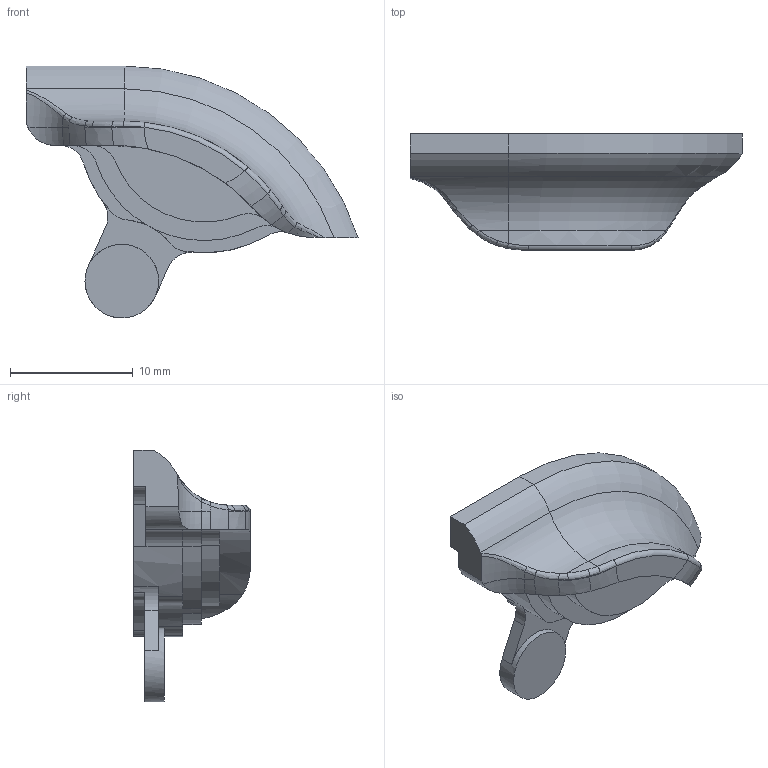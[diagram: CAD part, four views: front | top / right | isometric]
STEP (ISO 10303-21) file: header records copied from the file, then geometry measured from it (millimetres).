
FILE_DESCRIPTION(/* description */ (''),/* implementation_level */ '2;1');
FILE_NAME(/* name */ 'MirrorZR Trigger.step',/* time_stamp */ '2022-11-01T15:07:45+09:00',/* author */ (''),/* organization */ (''),/* preprocessor_version */ 'ST-DEVELOPER v19.2',/* originating_system */ 'Autodesk Translation Framework v11.17.0.187',/* authorisation */ '');
FILE_SCHEMA (('AUTOMOTIVE_DESIGN { 1 0 10303 214 3 1 1 }'));
Length unit declared in the file: millimetre
Products named in the file (1): MirrorZR Trigger
Bounding box: 27.05 x 9.5 x 20.52 mm (x, y, z)
Volume: 1248.2 mm3; surface area: 1150 mm2
Topology: 1 solids, 1 shells, 100 faces, 272 edges, 175 vertices
Faces by surface type: cylinder 38, plane 32, bspline 27, torus 3
Full cylindrical faces by diameter (mm): 6 x1
Entity records: 3944 total; most frequent: CARTESIAN_POINT 1477, ORIENTED_EDGE 544, DIRECTION 488, EDGE_CURVE 272, AXIS2_PLACEMENT_3D 191, VERTEX_POINT 175, CIRCLE 115, LINE 106
